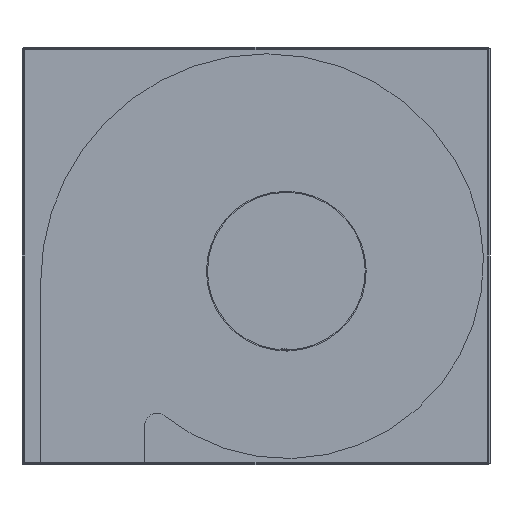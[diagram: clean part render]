
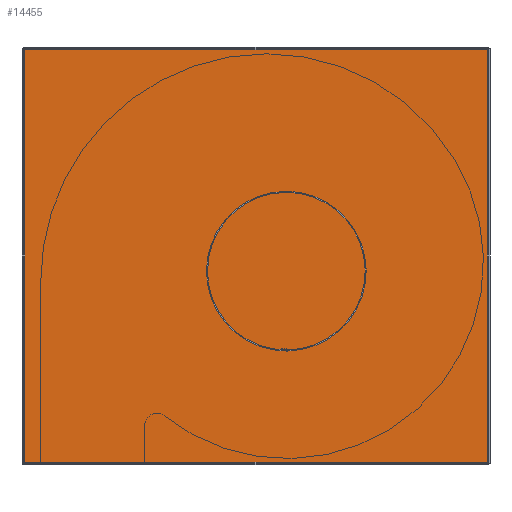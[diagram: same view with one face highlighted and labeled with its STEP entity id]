
A CAD part, front view. The second image highlights one B-rep face of the part: STEP entity #14455.
In plain terms, the highlighted planar face has unit normal (0, -1, 0).
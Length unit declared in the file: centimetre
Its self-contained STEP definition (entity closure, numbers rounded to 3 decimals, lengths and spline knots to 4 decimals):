
#152=CIRCLE('',#15022,7.8);
#154=CIRCLE('',#15026,0.02);
#156=CIRCLE('',#15030,0.14);
#158=CIRCLE('',#15033,7.699);
#160=CIRCLE('',#15037,7.799);
#162=CIRCLE('',#15040,0.04);
#164=CIRCLE('',#15044,0.12);
#166=CIRCLE('',#15047,7.9);
#172=CIRCLE('',#15056,0.15);
#173=CIRCLE('',#15057,0.15);
#174=CIRCLE('',#15058,0.15);
#175=CIRCLE('',#15059,0.15);
#416=FACE_BOUND('',#2302,.T.);
#721=PLANE('',#15055);
#1459=FACE_OUTER_BOUND('',#2301,.T.);
#2301=EDGE_LOOP('',(#13063,#13064,#13065,#13066,#13067,#13068,#13069,#13070));
#2302=EDGE_LOOP('',(#13071,#13072,#13073,#13074,#13075,#13076,#13077,#13078,
#13079,#13080,#13081,#13082));
#3352=LINE('',#30357,#4420);
#3356=LINE('',#30369,#4424);
#3361=LINE('',#30387,#4429);
#3366=LINE('',#30405,#4434);
#3375=LINE('',#30440,#4443);
#3376=LINE('',#30444,#4444);
#3377=LINE('',#30448,#4445);
#3378=LINE('',#30452,#4446);
#4420=VECTOR('',#17142,0.1);
#4424=VECTOR('',#17154,0.0226);
#4429=VECTOR('',#17173,0.1);
#4434=VECTOR('',#17192,0.0226);
#4443=VECTOR('',#17227,45.7764);
#4444=VECTOR('',#17230,40.7764);
#4445=VECTOR('',#17233,45.7764);
#4446=VECTOR('',#17236,40.7764);
#6707=VERTEX_POINT('',#30347);
#6708=VERTEX_POINT('',#30348);
#6711=VERTEX_POINT('',#30356);
#6713=VERTEX_POINT('',#30362);
#6715=VERTEX_POINT('',#30368);
#6717=VERTEX_POINT('',#30374);
#6719=VERTEX_POINT('',#30380);
#6721=VERTEX_POINT('',#30386);
#6723=VERTEX_POINT('',#30392);
#6725=VERTEX_POINT('',#30398);
#6727=VERTEX_POINT('',#30404);
#6729=VERTEX_POINT('',#30410);
#6739=VERTEX_POINT('',#30438);
#6740=VERTEX_POINT('',#30439);
#6741=VERTEX_POINT('',#30441);
#6742=VERTEX_POINT('',#30443);
#6743=VERTEX_POINT('',#30445);
#6744=VERTEX_POINT('',#30447);
#6745=VERTEX_POINT('',#30449);
#6746=VERTEX_POINT('',#30451);
#8816=EDGE_CURVE('',#6707,#6708,#152,.T.);
#8820=EDGE_CURVE('',#6708,#6711,#3352,.T.);
#8823=EDGE_CURVE('',#6713,#6707,#154,.T.);
#8826=EDGE_CURVE('',#6715,#6713,#3356,.T.);
#8829=EDGE_CURVE('',#6717,#6715,#156,.T.);
#8832=EDGE_CURVE('',#6719,#6717,#158,.T.);
#8835=EDGE_CURVE('',#6721,#6719,#3361,.T.);
#8838=EDGE_CURVE('',#6723,#6721,#160,.T.);
#8841=EDGE_CURVE('',#6725,#6723,#162,.T.);
#8844=EDGE_CURVE('',#6727,#6725,#3366,.T.);
#8847=EDGE_CURVE('',#6729,#6727,#164,.T.);
#8850=EDGE_CURVE('',#6711,#6729,#166,.T.);
#8861=EDGE_CURVE('',#6739,#6740,#3375,.T.);
#8862=EDGE_CURVE('',#6741,#6740,#172,.T.);
#8863=EDGE_CURVE('',#6741,#6742,#3376,.T.);
#8864=EDGE_CURVE('',#6743,#6742,#173,.T.);
#8865=EDGE_CURVE('',#6743,#6744,#3377,.T.);
#8866=EDGE_CURVE('',#6745,#6744,#174,.T.);
#8867=EDGE_CURVE('',#6745,#6746,#3378,.T.);
#8868=EDGE_CURVE('',#6739,#6746,#175,.T.);
#13063=ORIENTED_EDGE('',*,*,#8861,.T.);
#13064=ORIENTED_EDGE('',*,*,#8862,.F.);
#13065=ORIENTED_EDGE('',*,*,#8863,.T.);
#13066=ORIENTED_EDGE('',*,*,#8864,.F.);
#13067=ORIENTED_EDGE('',*,*,#8865,.T.);
#13068=ORIENTED_EDGE('',*,*,#8866,.F.);
#13069=ORIENTED_EDGE('',*,*,#8867,.T.);
#13070=ORIENTED_EDGE('',*,*,#8868,.F.);
#13071=ORIENTED_EDGE('',*,*,#8823,.T.);
#13072=ORIENTED_EDGE('',*,*,#8816,.T.);
#13073=ORIENTED_EDGE('',*,*,#8820,.T.);
#13074=ORIENTED_EDGE('',*,*,#8850,.T.);
#13075=ORIENTED_EDGE('',*,*,#8847,.T.);
#13076=ORIENTED_EDGE('',*,*,#8844,.T.);
#13077=ORIENTED_EDGE('',*,*,#8841,.T.);
#13078=ORIENTED_EDGE('',*,*,#8838,.T.);
#13079=ORIENTED_EDGE('',*,*,#8835,.T.);
#13080=ORIENTED_EDGE('',*,*,#8832,.T.);
#13081=ORIENTED_EDGE('',*,*,#8829,.T.);
#13082=ORIENTED_EDGE('',*,*,#8826,.T.);
#14455=ADVANCED_FACE('',(#1459,#416),#721,.F.);
#15022=AXIS2_PLACEMENT_3D('',#30349,#17134,#17135);
#15026=AXIS2_PLACEMENT_3D('',#30363,#17147,#17148);
#15030=AXIS2_PLACEMENT_3D('',#30375,#17159,#17160);
#15033=AXIS2_PLACEMENT_3D('',#30381,#17166,#17167);
#15037=AXIS2_PLACEMENT_3D('',#30393,#17178,#17179);
#15040=AXIS2_PLACEMENT_3D('',#30399,#17185,#17186);
#15044=AXIS2_PLACEMENT_3D('',#30411,#17197,#17198);
#15047=AXIS2_PLACEMENT_3D('',#30416,#17204,#17205);
#15055=AXIS2_PLACEMENT_3D('',#30437,#17225,#17226);
#15056=AXIS2_PLACEMENT_3D('',#30442,#17228,#17229);
#15057=AXIS2_PLACEMENT_3D('',#30446,#17231,#17232);
#15058=AXIS2_PLACEMENT_3D('',#30450,#17234,#17235);
#15059=AXIS2_PLACEMENT_3D('',#30453,#17237,#17238);
#17134=DIRECTION('center_axis',(0.,-1.,0.));
#17135=DIRECTION('ref_axis',(-0.019,0.,1.));
#17142=DIRECTION('',(0.,0.,-1.));
#17147=DIRECTION('center_axis',(0.,-1.,0.));
#17148=DIRECTION('ref_axis',(0.866,0.,0.5));
#17154=DIRECTION('',(0.5,0.,-0.866));
#17159=DIRECTION('center_axis',(0.,1.,0.));
#17160=DIRECTION('ref_axis',(0.866,0.,0.5));
#17166=DIRECTION('center_axis',(0.,-1.,0.));
#17167=DIRECTION('ref_axis',(0.064,0.,0.998));
#17173=DIRECTION('',(0.047,0.,0.999));
#17178=DIRECTION('center_axis',(0.,1.,0.));
#17179=DIRECTION('ref_axis',(-0.064,0.,-0.998));
#17185=DIRECTION('center_axis',(0.,-1.,0.));
#17186=DIRECTION('ref_axis',(-0.866,0.,-0.5));
#17192=DIRECTION('',(-0.5,0.,0.866));
#17197=DIRECTION('center_axis',(0.,1.,0.));
#17198=DIRECTION('ref_axis',(-0.866,0.,-0.5));
#17204=DIRECTION('center_axis',(0.,1.,0.));
#17205=DIRECTION('ref_axis',(0.019,0.,-1.));
#17225=DIRECTION('center_axis',(0.,1.,0.));
#17226=DIRECTION('ref_axis',(0.,0.,1.));
#17227=DIRECTION('',(-1.,0.,0.));
#17228=DIRECTION('center_axis',(0.,-1.,0.));
#17229=DIRECTION('ref_axis',(1.,0.,0.));
#17230=DIRECTION('',(0.,0.,-1.));
#17231=DIRECTION('center_axis',(0.,-1.,0.));
#17232=DIRECTION('ref_axis',(0.,0.,
1.));
#17233=DIRECTION('',(1.,0.,0.));
#17234=DIRECTION('center_axis',(0.,-1.,0.));
#17235=DIRECTION('ref_axis',(-1.,0.,0.));
#17236=DIRECTION('',(0.,0.,1.));
#17237=DIRECTION('center_axis',(0.,-1.,0.));
#17238=DIRECTION('ref_axis',(0.,0.,
-1.));
#30347=CARTESIAN_POINT('',(-457.8096,184.5516,11.3514));
#30348=CARTESIAN_POINT('',(-457.9599,184.5516,11.35));
#30349=CARTESIAN_POINT('Origin',(-457.9599,184.5516,19.15));
#30356=CARTESIAN_POINT('',(-457.9599,184.5516,11.25));
#30357=CARTESIAN_POINT('',(-457.9599,184.5516,21.2462));
#30362=CARTESIAN_POINT('',(-457.8273,184.5516,11.3614));
#30363=CARTESIAN_POINT('Origin',(-457.81,184.5516,11.3714));
#30368=CARTESIAN_POINT('',(-457.8386,184.5516,11.381));
#30369=CARTESIAN_POINT('',(-464.6363,184.5516,23.1549));
#30374=CARTESIAN_POINT('',(-457.9599,184.5516,11.451));
#30375=CARTESIAN_POINT('Origin',(-457.9599,184.5516,11.311));
#30380=CARTESIAN_POINT('',(-458.4552,184.5516,11.4669));
#30381=CARTESIAN_POINT('Origin',(-457.9599,184.5516,19.15));
#30386=CARTESIAN_POINT('',(-458.4599,184.5516,11.367));
#30387=CARTESIAN_POINT('',(-458.0133,184.5516,20.8214));
#30392=CARTESIAN_POINT('',(-457.9599,184.5516,11.351));
#30393=CARTESIAN_POINT('Origin',(-457.9599,184.5516,19.15));
#30398=CARTESIAN_POINT('',(-457.9252,184.5516,11.331));
#30399=CARTESIAN_POINT('Origin',(-457.9599,184.5516,11.311));
#30404=CARTESIAN_POINT('',(-457.9139,184.5516,11.3114));
#30405=CARTESIAN_POINT('',(-464.7285,184.5516,23.1147));
#30410=CARTESIAN_POINT('',(-457.8077,184.5516,11.2515));
#30411=CARTESIAN_POINT('Origin',(-457.81,184.5516,11.3714));
#30416=CARTESIAN_POINT('Origin',(-457.9599,184.5516,19.15));
#30437=CARTESIAN_POINT('Origin',(-478.0373,184.5516,31.1424));
#30438=CARTESIAN_POINT('',(-438.0717,184.5516,41.05));
#30439=CARTESIAN_POINT('',(-483.8481,184.5516,41.05));
#30440=CARTESIAN_POINT('',(-472.404,184.5516,41.05));
#30441=CARTESIAN_POINT('',(-483.8599,184.5516,41.0382));
#30442=CARTESIAN_POINT('Origin',(-483.9599,184.5516,41.15));
#30443=CARTESIAN_POINT('',(-483.8599,184.5516,0.2618));
#30444=CARTESIAN_POINT('',(-483.8599,184.5516,10.4559));
#30445=CARTESIAN_POINT('',(-483.8481,184.5516,0.25));
#30446=CARTESIAN_POINT('Origin',(-483.9599,184.5516,0.15));
#30447=CARTESIAN_POINT('',(-438.0717,184.5516,0.25));
#30448=CARTESIAN_POINT('',(-449.5158,184.5516,0.25));
#30449=CARTESIAN_POINT('',(-438.0599,184.5516,0.2618));
#30450=CARTESIAN_POINT('Origin',(-437.9599,184.5516,0.15));
#30451=CARTESIAN_POINT('',(-438.0599,184.5516,41.0382));
#30452=CARTESIAN_POINT('',(-438.0599,184.5516,30.8441));
#30453=CARTESIAN_POINT('Origin',(-437.9599,184.5516,41.15));
